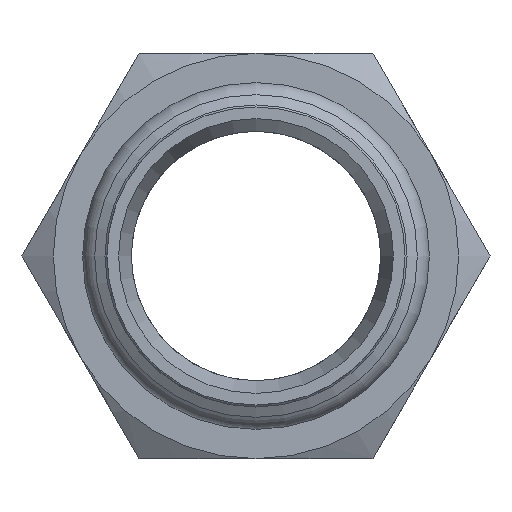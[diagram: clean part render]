
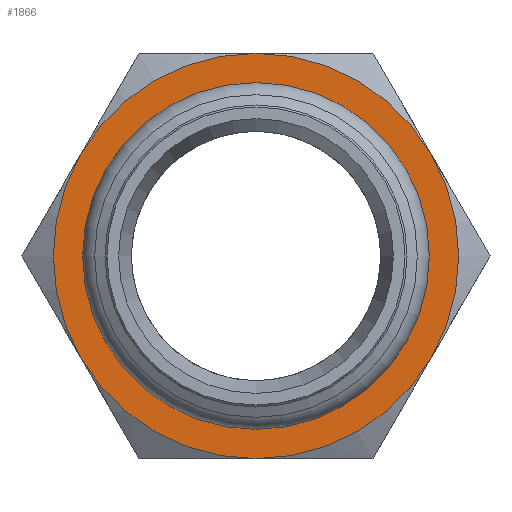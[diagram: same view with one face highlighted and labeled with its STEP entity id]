
A CAD part, left-side view. The second image highlights one B-rep face of the part: STEP entity #1866.
In plain terms, the highlighted planar face has unit normal (-1, 0, 0) as drawn and (0, 0, 1) by its records, which use the part's own axes.
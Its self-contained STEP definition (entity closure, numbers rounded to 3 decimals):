
#1209=CARTESIAN_POINT('',(19.5,0.,0.0));
#1210=VERTEX_POINT('',#1209);
#1211=CARTESIAN_POINT('',(0.0,0.0,0.0));
#1212=DIRECTION('',(0.0,0.0,-1.0));
#1213=DIRECTION('',(-1.0,0.0,0.0));
#1214=AXIS2_PLACEMENT_3D('',#1211,#1212,#1213);
#1215=CIRCLE('',#1214,19.5);
#1216=EDGE_CURVE('',#1210,#1210,#1215,.T.);
#1251=CARTESIAN_POINT('',(0.0,-26.,0.0));
#1252=VERTEX_POINT('',#1251);
#1266=CARTESIAN_POINT('',(22.517,-13.,0.0));
#1267=VERTEX_POINT('',#1266);
#1281=CARTESIAN_POINT('',(0.0,0.0,0.0));
#1282=DIRECTION('',(0.0,0.0,1.0));
#1283=DIRECTION('',(1.0,0.0,0.0));
#1284=AXIS2_PLACEMENT_3D('',#1281,#1282,#1283);
#1285=CIRCLE('',#1284,26.0);
#1286=EDGE_CURVE('',#1252,#1267,#1285,.T.);
#1298=CARTESIAN_POINT('',(-22.517,-13.,0.0));
#1299=VERTEX_POINT('',#1298);
#1326=CARTESIAN_POINT('',(0.0,0.0,0.0));
#1327=DIRECTION('',(0.0,0.0,1.0));
#1328=DIRECTION('',(1.0,0.0,0.0));
#1329=AXIS2_PLACEMENT_3D('',#1326,#1327,#1328);
#1330=CIRCLE('',#1329,26.0);
#1331=EDGE_CURVE('',#1299,#1252,#1330,.T.);
#1343=CARTESIAN_POINT('',(-22.517,13.,0.0));
#1344=VERTEX_POINT('',#1343);
#1371=CARTESIAN_POINT('',(0.0,0.0,0.0));
#1372=DIRECTION('',(0.0,0.0,1.0));
#1373=DIRECTION('',(1.0,0.0,0.0));
#1374=AXIS2_PLACEMENT_3D('',#1371,#1372,#1373);
#1375=CIRCLE('',#1374,26.0);
#1376=EDGE_CURVE('',#1344,#1299,#1375,.T.);
#1401=CARTESIAN_POINT('',(0.0,26.,0.0));
#1402=VERTEX_POINT('',#1401);
#1403=CARTESIAN_POINT('',(0.0,0.0,0.0));
#1404=DIRECTION('',(0.0,0.0,1.0));
#1405=DIRECTION('',(1.0,0.0,0.0));
#1406=AXIS2_PLACEMENT_3D('',#1403,#1404,#1405);
#1407=CIRCLE('',#1406,26.0);
#1408=EDGE_CURVE('',#1402,#1344,#1407,.T.);
#1446=CARTESIAN_POINT('',(22.517,13.,0.0));
#1447=VERTEX_POINT('',#1446);
#1448=CARTESIAN_POINT('',(0.0,0.0,0.0));
#1449=DIRECTION('',(0.0,0.0,1.0));
#1450=DIRECTION('',(1.0,0.0,0.0));
#1451=AXIS2_PLACEMENT_3D('',#1448,#1449,#1450);
#1452=CIRCLE('',#1451,26.0);
#1453=EDGE_CURVE('',#1447,#1402,#1452,.T.);
#1491=CARTESIAN_POINT('',(0.0,0.0,0.0));
#1492=DIRECTION('',(0.0,0.0,1.0));
#1493=DIRECTION('',(1.0,0.0,0.0));
#1494=AXIS2_PLACEMENT_3D('',#1491,#1492,#1493);
#1495=CIRCLE('',#1494,26.0);
#1496=EDGE_CURVE('',#1267,#1447,#1495,.T.);
#1850=CARTESIAN_POINT('',(0.0,0.,0.0));
#1851=DIRECTION('',(0.0,0.0,1.0));
#1852=DIRECTION('',(1.0,0.0,0.0));
#1853=AXIS2_PLACEMENT_3D('',#1850,#1851,#1852);
#1854=PLANE('',#1853);
#1855=ORIENTED_EDGE('',*,*,#1496,.T.);
#1856=ORIENTED_EDGE('',*,*,#1453,.T.);
#1857=ORIENTED_EDGE('',*,*,#1408,.T.);
#1858=ORIENTED_EDGE('',*,*,#1376,.T.);
#1859=ORIENTED_EDGE('',*,*,#1331,.T.);
#1860=ORIENTED_EDGE('',*,*,#1286,.T.);
#1861=EDGE_LOOP('',(#1855,#1856,#1857,#1858,#1859,#1860));
#1862=FACE_OUTER_BOUND('',#1861,.T.);
#1863=ORIENTED_EDGE('',*,*,#1216,.T.);
#1864=EDGE_LOOP('',(#1863));
#1865=FACE_BOUND('',#1864,.T.);
#1866=ADVANCED_FACE('',(#1862,#1865),#1854,.T.);
